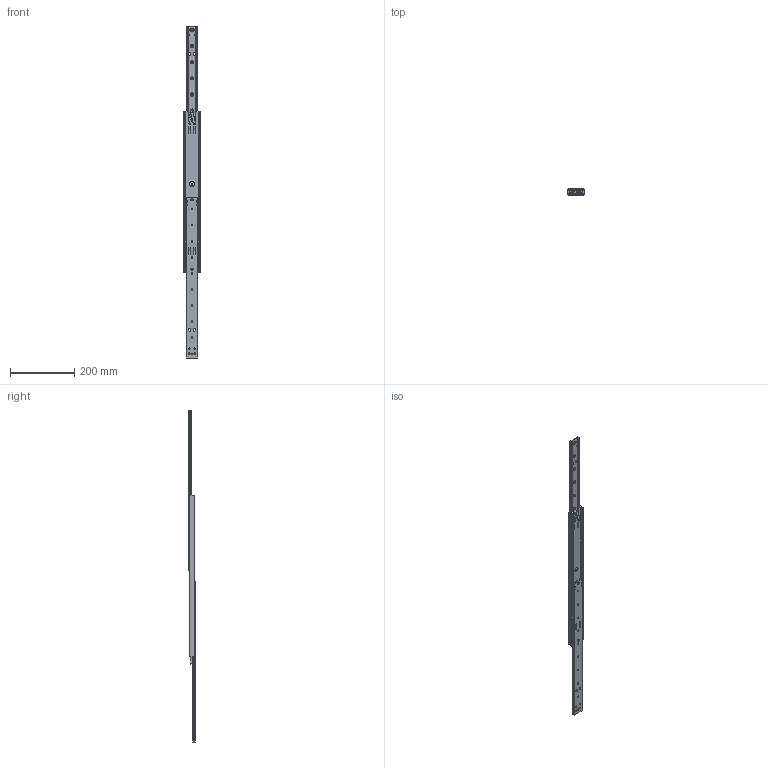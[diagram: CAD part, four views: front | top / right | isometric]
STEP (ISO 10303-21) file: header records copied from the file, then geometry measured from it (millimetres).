
FILE_DESCRIPTION (( 'STEP AP214' ), '1' );
FILE_NAME ('220-500-open.STEP', '2022-03-25T10:40:27', ( '' ), ( '' ), 'SwSTEP 2.0', 'SolidWorks 2021', '' );
FILE_SCHEMA (( 'AUTOMOTIVE_DESIGN' ));
Length unit declared in the file: millimetre
Products named in the file (12): 61_12719.STEP; 61_12282.STEP; 61_12278_14.STEP; 61_12279_10.STEP; 301_000_008_Fitted.STEP; 61_13331_Pin Fitted.STEP; 61_12280_10_Beam Assembled - Stop Raises .STEP; 400_000_004.STEP; 370_002_070.STEP; 220-500-open; 61_12276.STEP; 61_12274.STEP
Assembly tree (27 placements, depth 2):
  220-500-open
    61_12279_10.STEP
    61_12280_10_Beam Assembled - Stop Raises .STEP  x2
    61_13331_Pin Fitted.STEP  x4
    61_12282.STEP
    301_000_008_Fitted.STEP  x2
    61_12274.STEP
    370_002_070.STEP
    61_12719.STEP  x2
    400_000_004.STEP  x8
    61_12278_14.STEP  x4
    61_12276.STEP
Bounding box: 50.7 x 19.75 x 1030 mm (x, y, z)
Volume: 289471.6 mm3; surface area: 201021.8 mm2
Topology: 27 solids, 27 shells, 1409 faces, 3621 edges, 2260 vertices
Faces by surface type: cylinder 594, plane 299, sphere 289, torus 93, cone 88, bspline 46
Entity records: 30129 total; most frequent: CARTESIAN_POINT 8975, DIRECTION 4564, ORIENTED_EDGE 4250, EDGE_CURVE 2125, AXIS2_PLACEMENT_3D 1848, VERTEX_POINT 1315, CIRCLE 1027, EDGE_LOOP 964
